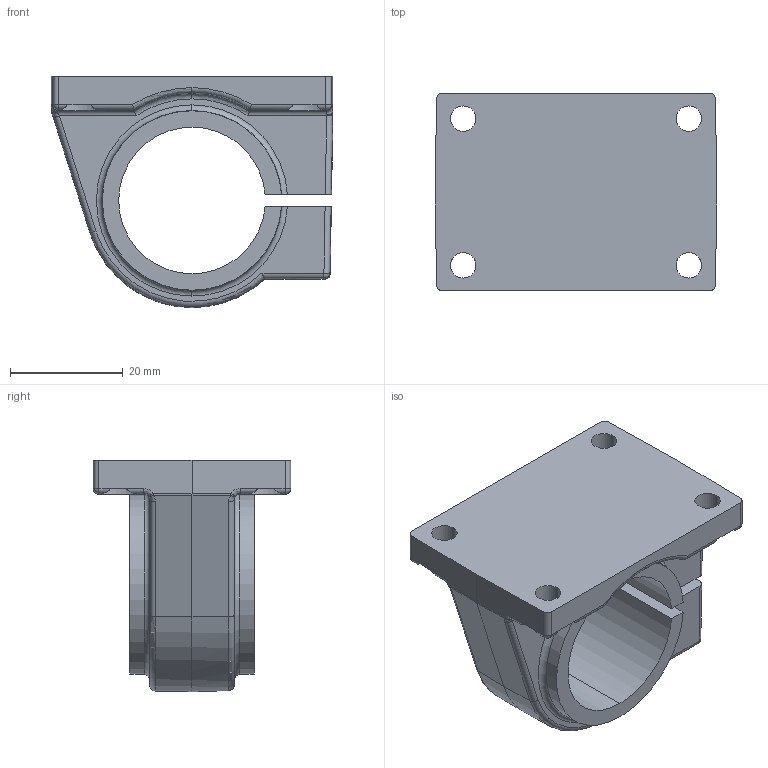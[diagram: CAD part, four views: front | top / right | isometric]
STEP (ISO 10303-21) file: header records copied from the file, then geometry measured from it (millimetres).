
FILE_DESCRIPTION (( 'STEP AP203' ), '1' );
FILE_NAME ('KGGE66-16.step', '2020-03-10T16:25:47', ( '' ), ( '' ), 'SwSTEP 2.0', 'SolidWorks 2019', '' );
FILE_SCHEMA (( 'CONFIG_CONTROL_DESIGN' ));
Length unit declared in the file: millimetre
Products named in the file (2): KGGE66-16
Bounding box: 49.98 x 35 x 41 mm (x, y, z)
Volume: 23484.2 mm3; surface area: 10026.5 mm2
Topology: 1 solids, 1 shells, 147 faces, 361 edges, 213 vertices
Faces by surface type: cylinder 66, plane 38, torus 16, cone 11, bspline 8, sphere 8
Entity records: 4848 total; most frequent: CARTESIAN_POINT 1330, ORIENTED_EDGE 714, DIRECTION 714, EDGE_CURVE 357, AXIS2_PLACEMENT_3D 285, VERTEX_POINT 213, EDGE_LOOP 158, ADVANCED_FACE 147
